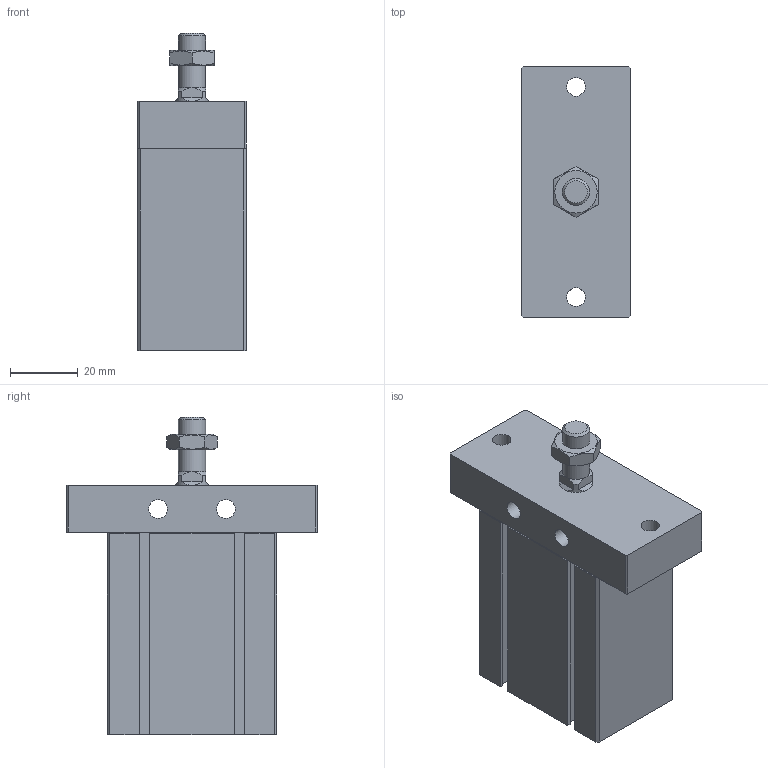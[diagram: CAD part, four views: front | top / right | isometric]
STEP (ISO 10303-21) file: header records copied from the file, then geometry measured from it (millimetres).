
FILE_DESCRIPTION((''),'2;1');
FILE_NAME('J:\3D電子目錄\氣缸\ND\ND\ND25-FBS\ND25x20-FBS.stp','2008-03-13T09:53:17',('66-2f-008'),(''),'Autodesk Inventor 11','Autodesk Inventor 11','');
FILE_SCHEMA(('AUTOMOTIVE_DESIGN { 1 0 10303 214 1 1 1 1 }'));
Length unit declared in the file: millimetre
Products named in the file (1): ND25-FBS
Bounding box: 32 x 74 x 93.5 mm (x, y, z)
Volume: 119353.9 mm3; surface area: 24235.8 mm2
Topology: 2 solids, 2 shells, 129 faces, 311 edges, 197 vertices
Faces by surface type: plane 87, cone 14, bspline 14, cylinder 13, torus 1
Full cylindrical faces by diameter (mm): 1.5 x2, 5.5 x2, 8 x2, 17 x1, 28 x1, 29.4 x1
Entity records: 3654 total; most frequent: CARTESIAN_POINT 820, DIRECTION 552, ORIENTED_EDGE 552, EDGE_CURVE 276, VERTEX_POINT 192, VECTOR 192, LINE 192, AXIS2_PLACEMENT_3D 180
